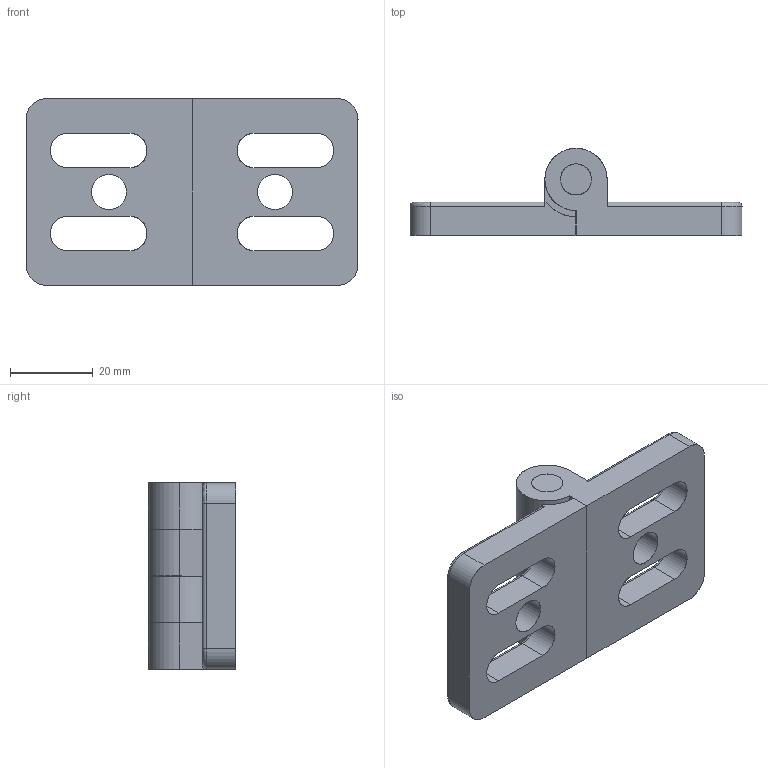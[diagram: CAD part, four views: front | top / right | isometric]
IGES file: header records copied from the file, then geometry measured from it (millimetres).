
Start section: SolidWorks IGES file using analytic representation for surfaces
Global section: file name: D:\LETROMEC CATALOGUE\Hinge\LIMA-CP-H60X60\LIMA-CP-H60X60.IGS; native system: SolidWorks 2013; preprocessor: SolidWorks 2013; author: User; date: 180315.204812; units: millimetre
Bounding box: 80 x 21 x 45 mm (x, y, z)
Surface area: 14785.6 mm2 (no closed solid volume)
Topology: 0 solids, 0 shells, 110 faces, 1572 edges, 1572 vertices
Faces by surface type: revolution 56, bspline 54
